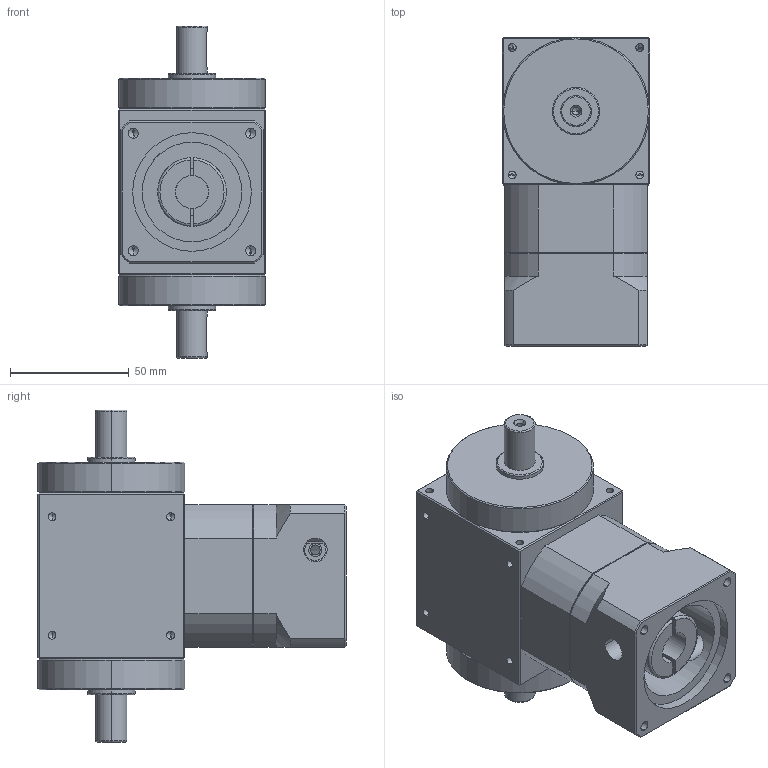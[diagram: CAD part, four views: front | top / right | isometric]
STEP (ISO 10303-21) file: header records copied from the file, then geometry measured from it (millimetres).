
FILE_DESCRIPTION (( 'STEP AP203' ), '1' );
FILE_NAME ('KHT60-S2-L1£r50PCD£r70M5.STEP', '2014-03-24T00:17:20', ( 'KELLY' ), ( '' ), 'SwSTEP 2.0', 'SolidWorks 2012', '' );
FILE_SCHEMA (( 'CONFIG_CONTROL_DESIGN' ));
Length unit declared in the file: millimetre
Products named in the file (1): KHT60-S2-L1｣r50PCD｣r70M5
Bounding box: 62 x 130 x 140 mm (x, y, z)
Volume: 539027.6 mm3; surface area: 79204.9 mm2
Topology: 6 solids, 6 shells, 291 faces, 726 edges, 406 vertices
Faces by surface type: cylinder 124, plane 79, cone 76, torus 12
Entity records: 9246 total; most frequent: CARTESIAN_POINT 2555, DIRECTION 1402, ORIENTED_EDGE 1348, EDGE_CURVE 674, AXIS2_PLACEMENT_3D 544, VERTEX_POINT 406, EDGE_LOOP 338, LINE 314
